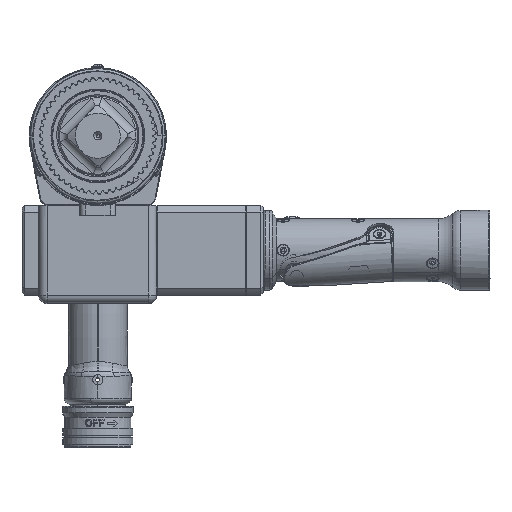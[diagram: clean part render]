
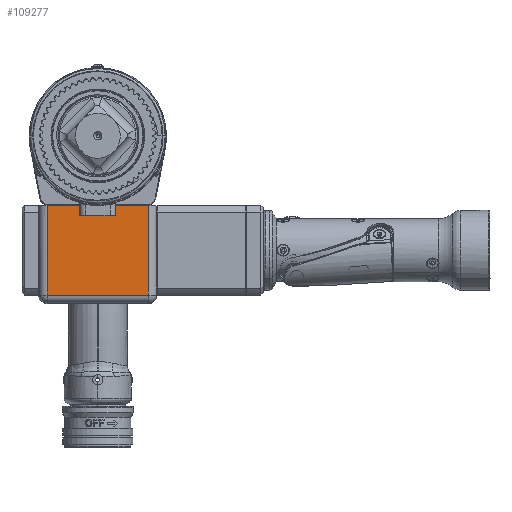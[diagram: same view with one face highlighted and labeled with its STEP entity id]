
A CAD part, top view. The second image highlights one B-rep face of the part: STEP entity #109277.
In plain terms, the highlighted planar face has unit normal (0, 0, 1).
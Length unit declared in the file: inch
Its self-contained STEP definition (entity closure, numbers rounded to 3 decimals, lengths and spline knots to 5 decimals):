
#3570 = DIRECTION ( 'NONE',  ( 0., 0., -1. ) ) ;
#4156 = VECTOR ( 'NONE', #7187, 39.37008 ) ;
#4728 = CARTESIAN_POINT ( 'NONE',  ( 0.375, -1.53, 0.0005 ) ) ;
#5247 = CARTESIAN_POINT ( 'NONE',  ( -0.365, -1.77, 0.0005 ) ) ;
#5363 = DIRECTION ( 'NONE',  ( -1., 0., 0. ) ) ;
#7187 = DIRECTION ( 'NONE',  ( 1., 0., 0. ) ) ;
#7280 = VERTEX_POINT ( 'NONE', #89854 ) ;
#8374 = LINE ( 'NONE', #94960, #69461 ) ;
#11141 = DIRECTION ( 'NONE',  ( 0., -1., 0. ) ) ;
#12251 = VECTOR ( 'NONE', #55596, 39.37008 ) ;
#13682 = CARTESIAN_POINT ( 'NONE',  ( -0.365, -1.76, 0.0005 ) ) ;
#14505 = CARTESIAN_POINT ( 'NONE',  ( 0.375, -1.53, 0.0005 ) ) ;
#14782 = EDGE_CURVE ( 'NONE', #66424, #15317, #74223, .T. ) ;
#14882 = CIRCLE ( 'NONE', #110505, 0.01 ) ;
#15317 = VERTEX_POINT ( 'NONE', #149365 ) ;
#19824 = VECTOR ( 'NONE', #75424, 39.37008 ) ;
#21115 = VECTOR ( 'NONE', #11141, 39.37008 ) ;
#21207 = VERTEX_POINT ( 'NONE', #146192 ) ;
#26633 = LINE ( 'NONE', #14505, #132085 ) ;
#26765 = CARTESIAN_POINT ( 'NONE',  ( 1.3125, -1.53, 0.0005 ) ) ;
#28835 = VERTEX_POINT ( 'NONE', #120129 ) ;
#32541 = ORIENTED_EDGE ( 'NONE', *, *, #54822, .T. ) ;
#32665 = ORIENTED_EDGE ( 'NONE', *, *, #150905, .F. ) ;
#38944 = EDGE_CURVE ( 'NONE', #28835, #7280, #14882, .T. ) ;
#38964 = CARTESIAN_POINT ( 'NONE',  ( 1.125, -1.53, 0.0005 ) ) ;
#41219 = VERTEX_POINT ( 'NONE', #103397 ) ;
#41270 = DIRECTION ( 'NONE',  ( 0., -1., 0. ) ) ;
#44291 = VECTOR ( 'NONE', #56591, 39.37008 ) ;
#52888 = DIRECTION ( 'NONE',  ( -1., 0., 0. ) ) ;
#54822 = EDGE_CURVE ( 'NONE', #134996, #41219, #83634, .T. ) ;
#55596 = DIRECTION ( 'NONE',  ( 1., 0., 0. ) ) ;
#56591 = DIRECTION ( 'NONE',  ( 1., 0., 0. ) ) ;
#56813 = EDGE_CURVE ( 'NONE', #41219, #133716, #8374, .T. ) ;
#61542 = EDGE_CURVE ( 'NONE', #66424, #7280, #66281, .T. ) ;
#61663 = CARTESIAN_POINT ( 'NONE',  ( 1.125, -3.53, 0.0005 ) ) ;
#63411 = VERTEX_POINT ( 'NONE', #4728 ) ;
#63784 = DIRECTION ( 'NONE',  ( 0., 1., 0. ) ) ;
#64980 = CARTESIAN_POINT ( 'NONE',  ( 0.365, -1.76, 0.0005 ) ) ;
#65466 = CARTESIAN_POINT ( 'NONE',  ( -1.125, -3.53, 0.0005 ) ) ;
#66281 = LINE ( 'NONE', #105144, #44291 ) ;
#66424 = VERTEX_POINT ( 'NONE', #5247 ) ;
#69270 = ORIENTED_EDGE ( 'NONE', *, *, #96667, .F. ) ;
#69461 = VECTOR ( 'NONE', #82814, 39.37008 ) ;
#70816 = DIRECTION ( 'NONE',  ( 0., 0., -1. ) ) ;
#74223 = CIRCLE ( 'NONE', #94959, 0.01 ) ;
#75424 = DIRECTION ( 'NONE',  ( 1., 0., 0. ) ) ;
#81600 = LINE ( 'NONE', #141560, #4156 ) ;
#82814 = DIRECTION ( 'NONE',  ( 0., 1., 0. ) ) ;
#83634 = LINE ( 'NONE', #61663, #19824 ) ;
#84083 = EDGE_CURVE ( 'NONE', #108016, #21207, #81600, .T. ) ;
#87767 = ORIENTED_EDGE ( 'NONE', *, *, #84083, .F. ) ;
#88216 = EDGE_LOOP ( 'NONE', ( #110849, #155418, #133638, #87767, #110287, #32541, #94016, #32665, #69270, #108431 ) ) ;
#89854 = CARTESIAN_POINT ( 'NONE',  ( 0.365, -1.77, 0.0005 ) ) ;
#94016 = ORIENTED_EDGE ( 'NONE', *, *, #56813, .T. ) ;
#94337 = FACE_OUTER_BOUND ( 'NONE', #88216, .T. ) ;
#94959 = AXIS2_PLACEMENT_3D ( 'NONE', #13682, #113972, #114787 ) ;
#94960 = CARTESIAN_POINT ( 'NONE',  ( 1.125, -1.56, 0.0005 ) ) ;
#96667 = EDGE_CURVE ( 'NONE', #28835, #63411, #26633, .T. ) ;
#97485 = CARTESIAN_POINT ( 'NONE',  ( -1.125, -1.53, 0.0005 ) ) ;
#102000 = LINE ( 'NONE', #26765, #12251 ) ;
#103397 = CARTESIAN_POINT ( 'NONE',  ( 1.125, -3.53, 0.0005 ) ) ;
#105144 = CARTESIAN_POINT ( 'NONE',  ( 0.375, -1.77, 0.0005 ) ) ;
#108016 = VERTEX_POINT ( 'NONE', #97485 ) ;
#108431 = ORIENTED_EDGE ( 'NONE', *, *, #38944, .T. ) ;
#109277 = ADVANCED_FACE ( 'NONE', ( #94337 ), #155158, .F. ) ;
#110287 = ORIENTED_EDGE ( 'NONE', *, *, #147220, .T. ) ;
#110505 = AXIS2_PLACEMENT_3D ( 'NONE', #64980, #3570, #52888 ) ;
#110849 = ORIENTED_EDGE ( 'NONE', *, *, #61542, .F. ) ;
#113972 = DIRECTION ( 'NONE',  ( 0., 0., -1. ) ) ;
#114787 = DIRECTION ( 'NONE',  ( -1., 0., 0. ) ) ;
#120129 = CARTESIAN_POINT ( 'NONE',  ( 0.375, -1.76, 0.0005 ) ) ;
#121967 = CARTESIAN_POINT ( 'NONE',  ( -0.375, -1.77, 0.0005 ) ) ;
#122775 = LINE ( 'NONE', #121967, #21115 ) ;
#127663 = VECTOR ( 'NONE', #41270, 39.37008 ) ;
#129931 = CARTESIAN_POINT ( 'NONE',  ( -1.3125, -1.53, 0.0005 ) ) ;
#132085 = VECTOR ( 'NONE', #63784, 39.37008 ) ;
#133638 = ORIENTED_EDGE ( 'NONE', *, *, #143030, .F. ) ;
#133716 = VERTEX_POINT ( 'NONE', #38964 ) ;
#134996 = VERTEX_POINT ( 'NONE', #152699 ) ;
#141560 = CARTESIAN_POINT ( 'NONE',  ( 1.3125, -1.53, 0.0005 ) ) ;
#142222 = AXIS2_PLACEMENT_3D ( 'NONE', #129931, #70816, #5363 ) ;
#143030 = EDGE_CURVE ( 'NONE', #21207, #15317, #122775, .T. ) ;
#146192 = CARTESIAN_POINT ( 'NONE',  ( -0.375, -1.53, 0.0005 ) ) ;
#147220 = EDGE_CURVE ( 'NONE', #108016, #134996, #152250, .T. ) ;
#149365 = CARTESIAN_POINT ( 'NONE',  ( -0.375, -1.76, 0.0005 ) ) ;
#150905 = EDGE_CURVE ( 'NONE', #63411, #133716, #102000, .T. ) ;
#152250 = LINE ( 'NONE', #65466, #127663 ) ;
#152699 = CARTESIAN_POINT ( 'NONE',  ( -1.125, -3.53, 0.0005 ) ) ;
#155158 = PLANE ( 'NONE',  #142222 ) ;
#155418 = ORIENTED_EDGE ( 'NONE', *, *, #14782, .T. ) ;
